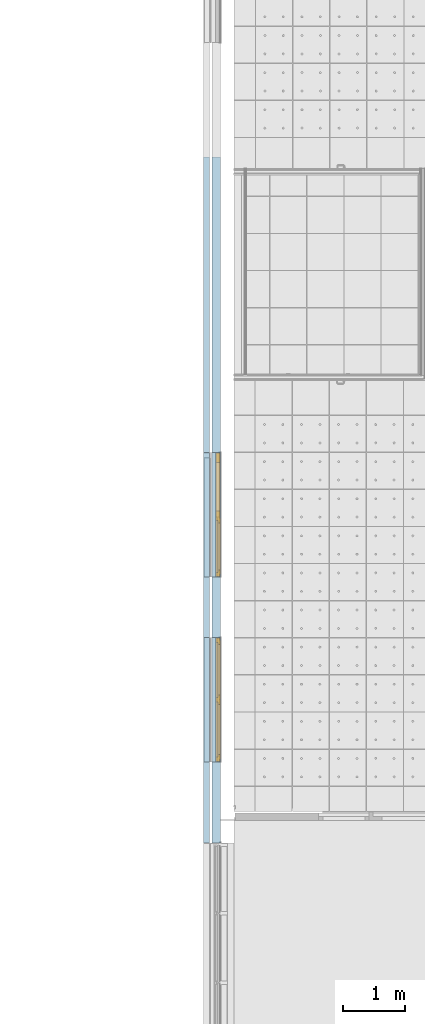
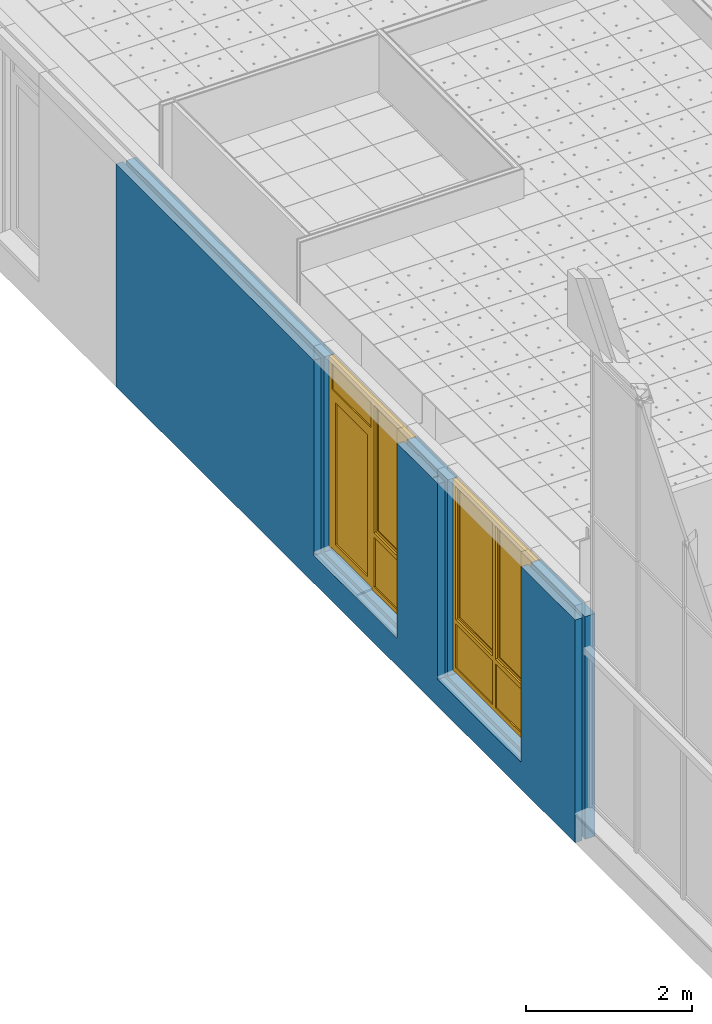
# One storey, part 50 of 338: 2 building element parts, 1 door, 1 window, 2 openings, 1 element without a shape of its own.
"""IFC2X3 building model written with IfcOpenShell, lengths in millimetres."""

import ifcopenshell
import ifcopenshell.guid

model = None  # the IFC model being written
_history = None  # IfcOwnerHistory: only IFC2X3 demands one
_inside = {}  # id of a spatial element -> (the spatial element, [elements in it])
_under = {}  # id of a project, library or spatial element -> (it, [spatial elements below it])
_declared = {}  # id of a project -> (the project, [libraries it declares])
_typed = {}  # id of a type object -> (the type object, [elements of that type])
_made_of = {}  # id of a material, layer set ... -> (it, [elements and type objects made of it])


def new_model(schema):
    """Start an empty IFC model of exactly this schema.

    Asked for "IFC4X3", IfcOpenShell would pick the latest addendum, in which some entities
    have other attributes; the version numbers below select the first issue.
    IFC2X3 requires an IfcOwnerHistory on every rooted entity: one is made here for all.
    """
    global model, _history
    if schema == "IFC4X3":
        model = ifcopenshell.file(schema_version=(4, 3, 0, 0))
    else:
        model = ifcopenshell.file(schema=schema)
    _inside.clear()
    _under.clear()
    _declared.clear()
    _typed.clear()
    _made_of.clear()
    _history = None
    if model.schema == "IFC2X3":
        org = make("IfcOrganization", Name="unknown")
        user = make(
            "IfcPersonAndOrganization",
            ThePerson=make("IfcPerson", FamilyName="unknown"),
            TheOrganization=org,
        )
        app = make(
            "IfcApplication",
            ApplicationDeveloper=org,
            Version="unknown",
            ApplicationFullName="unknown",
            ApplicationIdentifier="unknown",
        )
        _history = make(
            "IfcOwnerHistory",
            OwningUser=user,
            OwningApplication=app,
            ChangeAction="ADDED",
            CreationDate=0,
        )
    return model


def make(cls, **values):
    """One entity of the class cls with the attributes given. An attribute that is None is left unset."""
    return model.create_entity(
        cls, **{name: value for name, value in values.items() if value is not None}
    )


def entity(cls, *values):
    """Any entity or typed value of the class cls, its attributes in the order of the schema. None: left unset."""
    e = model.create_entity(cls)
    for i, value in enumerate(values):
        if value is not None:
            e[i] = value
    return e


def rooted(cls, **values):
    """An entity with a GlobalId (a new one), such as an element, a storey or a relation."""
    return make(cls, GlobalId=ifcopenshell.guid.new(), OwnerHistory=_history, **values)


def si_unit(unit_type, name, prefix=None):
    """IfcSIUnit, for example si_unit("LENGTHUNIT", "METRE", prefix="MILLI")."""
    return make("IfcSIUnit", UnitType=unit_type, Prefix=prefix, Name=name)


def converted_unit(unit_type, name, factor, base, dimensions=None, offset=None):
    """IfcConversionBasedUnit, such as the inch: factor (a typed value) times the base unit."""
    return make(
        "IfcConversionBasedUnit"
        if offset is None
        else "IfcConversionBasedUnitWithOffset",
        ConversionOffset=offset,
        Dimensions=None
        if dimensions is None
        else entity("IfcDimensionalExponents", *dimensions),
        UnitType=unit_type,
        Name=name,
        ConversionFactor=make(
            "IfcMeasureWithUnit", ValueComponent=factor, UnitComponent=base
        ),
    )


def derived_unit(unit_type, elements):
    """IfcDerivedUnit: a product of units, each with its exponent."""
    return make(
        "IfcDerivedUnit",
        Elements=[
            make("IfcDerivedUnitElement", Unit=unit, Exponent=power)
            for unit, power in elements
        ],
        UnitType=unit_type,
    )


def money_unit(currency):
    """IfcMonetaryUnit."""
    return make("IfcMonetaryUnit", Currency=currency)


def assignment(units):
    """IfcUnitAssignment: the units of a project."""
    return None if units is None else make("IfcUnitAssignment", Units=units)


def point(xyz):
    """IfcCartesianPoint."""
    return None if xyz is None else make("IfcCartesianPoint", Coordinates=xyz)


def direction(xyz):
    """IfcDirection."""
    return None if xyz is None else make("IfcDirection", DirectionRatios=xyz)


def frame(location, z_axis=None, x_axis=None):
    """IfcAxis2Placement3D, a coordinate frame: its origin and axes. An axis left out is left unset."""
    return make(
        "IfcAxis2Placement3D",
        Location=point(location),
        Axis=direction(z_axis),
        RefDirection=direction(x_axis),
    )


def origin_with_axes():
    """The frame at (0, 0, 0) with the z axis (0, 0, 1) and the x axis (1, 0, 0) written out."""
    return frame((0.0, 0.0, 0.0), z_axis=(0.0, 0.0, 1.0), x_axis=(1.0, 0.0, 0.0))


def place(relative_to, where):
    """IfcLocalPlacement: puts the frame where relative to a parent placement (None: the world)."""
    return make(
        "IfcLocalPlacement", PlacementRelTo=relative_to, RelativePlacement=where
    )


def context(
    kind, dimensions, precision=None, world=None, true_north=None, identifier=None
):
    """IfcGeometricRepresentationContext, for example the 3D "Model" context."""
    return make(
        "IfcGeometricRepresentationContext",
        ContextIdentifier=identifier,
        ContextType=kind,
        CoordinateSpaceDimension=dimensions,
        Precision=precision,
        WorldCoordinateSystem=world,
        TrueNorth=true_north,
    )


def subcontext(parent, identifier, kind, view, scale=None):
    """IfcGeometricRepresentationSubContext, for example "Body" below "Model"."""
    return make(
        "IfcGeometricRepresentationSubContext",
        ContextIdentifier=identifier,
        ContextType=kind,
        ParentContext=parent,
        TargetScale=scale,
        TargetView=view,
    )


def project(units=None, contexts=None):
    """IfcProject with its units and contexts."""
    return rooted(
        "IfcProject",
        Name="project",
        RepresentationContexts=contexts,
        UnitsInContext=assignment(units),
    )


def spatial(cls, under=None, at=None, **own):
    """A site, building, storey or space (cls), placed at a placement, below another one or the project."""
    s = rooted(cls, ObjectPlacement=at, **own)
    if under is not None:
        _under.setdefault(under.id(), (under, []))[1].append(s)
    return s


def faces_of(points, faces, orient=None, outer=None):
    """IfcFace entities. A face is a list of loops; a loop is a list of indices into points, from 0.

    orient and outer hold one flag for each loop. By default every Orientation is true, the
    first loop of a face is its IfcFaceOuterBound and the others are IfcFaceBound.
    """
    made = []
    for i, loops in enumerate(faces):
        bounds = []
        for j, loop in enumerate(loops):
            is_outer = j == 0 if outer is None else outer[i][j]
            bounds.append(
                make(
                    "IfcFaceOuterBound" if is_outer else "IfcFaceBound",
                    Bound=make("IfcPolyLoop", Polygon=[points[k] for k in loop]),
                    Orientation=True if orient is None else orient[i][j],
                )
            )
        made.append(make("IfcFace", Bounds=bounds))
    return made


def open_shell(faces, orient=None, outer=None):
    """The faces of one IfcOpenShell. surface_model builds it on its shared points."""
    return ("IfcOpenShell", faces, orient, outer)


def faceted_brep(points, faces, orient=None, outer=None, voids=None):
    """IfcFacetedBrep: a solid bounded by flat faces; with voids (closed shells), ...WithVoids."""
    shared = [point(p) for p in points]
    hull = make("IfcClosedShell", CfsFaces=faces_of(shared, faces, orient, outer))
    if voids is None:
        return make("IfcFacetedBrep", Outer=hull)
    return make(
        "IfcFacetedBrepWithVoids",
        Outer=hull,
        Voids=[
            make(cls, CfsFaces=faces_of(shared, fs, o, b)) for cls, fs, o, b in voids
        ],
    )


def surface_model(cls, points, shells):
    """IfcFaceBasedSurfaceModel or IfcShellBasedSurfaceModel (cls): surfaces that need not close."""
    shared = [point(p) for p in points]
    made = [make(c, CfsFaces=faces_of(shared, fs, o, b)) for c, fs, o, b in shells]
    if cls == "IfcFaceBasedSurfaceModel":
        return make(cls, FbsmFaces=made)
    return make(cls, SbsmBoundary=made)


def shape(context_of_items, identifier, shape_type, items):
    """IfcShapeRepresentation: the items that make up one representation, for example the "Body"."""
    return make(
        "IfcShapeRepresentation",
        ContextOfItems=context_of_items,
        RepresentationIdentifier=identifier,
        RepresentationType=shape_type,
        Items=items,
    )


def source(mapping_origin, context_of_items, identifier, shape_type, items):
    """IfcRepresentationMap: a shape defined once, which mapped items show again and again."""
    return make(
        "IfcRepresentationMap",
        MappingOrigin=mapping_origin,
        MappedRepresentation=shape(context_of_items, identifier, shape_type, items),
    )


def transform(
    local_origin,
    x_axis=None,
    y_axis=None,
    z_axis=None,
    scale=None,
    scale2=None,
    scale3=None,
    uniform=True,
):
    """IfcCartesianTransformationOperator3D, or its non-uniform kind. x_axis, y_axis, z_axis: its Axis1, 2, 3."""
    if uniform:
        return make(
            "IfcCartesianTransformationOperator3D",
            Axis1=direction(x_axis),
            Axis2=direction(y_axis),
            LocalOrigin=point(local_origin),
            Scale=scale,
            Axis3=direction(z_axis),
        )
    return make(
        "IfcCartesianTransformationOperator3DnonUniform",
        Axis1=direction(x_axis),
        Axis2=direction(y_axis),
        LocalOrigin=point(local_origin),
        Scale=scale,
        Axis3=direction(z_axis),
        Scale2=scale2,
        Scale3=scale3,
    )


def mapped(mapping_source, mapping_target):
    """IfcMappedItem: shows the shape of a source again, moved by a transform."""
    return make(
        "IfcMappedItem", MappingSource=mapping_source, MappingTarget=mapping_target
    )


def material(Name=None, Category=None):
    """IfcMaterial."""
    return make("IfcMaterial", Name=Name, Category=Category)


def made_of(thing, what):
    """Note that an element or type object is made of a material, layer set ...; save() writes the relation."""
    if what is not None:
        _made_of.setdefault(what.id(), (what, []))[1].append(thing)
    return thing


def type_object(cls, material=None, **own):
    """A type object (cls), such as IfcWallType, which elements share."""
    return made_of(rooted(cls, **own), material)


def type_shapes(of_type, sources):
    """Give a type object the sources (RepresentationMaps) that its elements show as mapped items."""
    of_type.RepresentationMaps = sources


def element(
    cls,
    number,
    at=None,
    inside=None,
    cuts=None,
    type_object=None,
    material=None,
    context=None,
    identifier="Body",
    shape_type=None,
    held_by="IfcProductDefinitionShape",
    body=None,
    shapes=None,
    **own,
):
    """One element of the class cls, such as IfcWall. Its Tag is "e" and its number.

    at: its placement. inside: the storey or other place that contains it. cuts: it is an
    opening in that element (IfcRelVoidsElement). A single representation is given by context,
    identifier, shape_type and body (its items); several are given by shapes. held_by: the class
    of the entity that holds the representations. save() writes the other relations.
    """
    e = rooted(cls, Tag="e%d" % number, ObjectPlacement=at, **own)
    if body is not None:
        shapes = [shape(context, identifier, shape_type, body)]
    if shapes is not None:
        e.Representation = make(held_by, Representations=shapes)
    if inside is not None:
        _inside.setdefault(inside.id(), (inside, []))[1].append(e)
    if cuts is not None:
        rooted(
            "IfcRelVoidsElement", RelatingBuildingElement=cuts, RelatedOpeningElement=e
        )
    if type_object is not None:
        _typed.setdefault(type_object.id(), (type_object, []))[1].append(e)
    return made_of(e, material)


def fill(opening, filler):
    """IfcRelFillsElement: the door or window that sits in an opening."""
    return rooted(
        "IfcRelFillsElement",
        RelatingOpeningElement=opening,
        RelatedBuildingElement=filler,
    )


def aggregate(whole, parts):
    """IfcRelAggregates: a whole, such as a stair, and the parts it consists of."""
    return rooted("IfcRelAggregates", RelatingObject=whole, RelatedObjects=parts)


def save(model, path):
    """Write the relations noted so far, then the file.

    IfcRelAggregates (storeys below a building ...), IfcRelContainedInSpatialStructure (elements
    in a storey), IfcRelDefinesByType, IfcRelAssociatesMaterial and IfcRelDeclares: one each for
    every whole, place, type object, material and project.
    """
    for whole, parts in _under.values():
        aggregate(whole, parts)
    for where, things in _inside.values():
        rooted(
            "IfcRelContainedInSpatialStructure",
            RelatedElements=things,
            RelatingStructure=where,
        )
    for kind, things in _typed.values():
        rooted("IfcRelDefinesByType", RelatedObjects=things, RelatingType=kind)
    for what, things in _made_of.values():
        rooted("IfcRelAssociatesMaterial", RelatedObjects=things, RelatingMaterial=what)
    for by, libraries in _declared.values():
        rooted("IfcRelDeclares", RelatingContext=by, RelatedDefinitions=libraries)
    model.write(path)


model = new_model("IFC2X3")

# Units and contexts
model_context = context("Model", 3, precision=0.01, world=origin_with_axes(), true_north=direction((0.0, 1.0)))
plan_context = context("Plan", 3, precision=0.01, world=origin_with_axes(), true_north=direction((0.0, 1.0)))
body_context = subcontext(model_context, "Body", "Model", "MODEL_VIEW")
ifc_project = project(units=[si_unit("LENGTHUNIT", "METRE", prefix="MILLI"), si_unit("AREAUNIT", "SQUARE_METRE"), si_unit("VOLUMEUNIT", "CUBIC_METRE"), converted_unit("PLANEANGLEUNIT", "DEGREE", entity("IfcPlaneAngleMeasure", 0.0174532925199), si_unit("PLANEANGLEUNIT", "RADIAN"), dimensions=[0, 0, 0, 0, 0, 0, 0]), money_unit("EUR"), converted_unit("TIMEUNIT", "Year", entity("IfcTimeMeasure", 31556926.0), si_unit("TIMEUNIT", "SECOND"), dimensions=[0, 0, 1, 0, 0, 0, 0]), si_unit("MASSUNIT", "GRAM", prefix="KILO"), si_unit("THERMODYNAMICTEMPERATUREUNIT", "DEGREE_CELSIUS"), si_unit("LUMINOUSINTENSITYUNIT", "LUMEN"), si_unit("ENERGYUNIT", "JOULE", prefix="MEGA"), derived_unit("THERMALCONDUCTANCEUNIT", [(si_unit("POWERUNIT", "WATT"), 1), (si_unit("LENGTHUNIT", "METRE"), -1), (si_unit("THERMODYNAMICTEMPERATUREUNIT", "KELVIN"), -1)]), derived_unit("SPECIFICHEATCAPACITYUNIT", [(si_unit("ENERGYUNIT", "JOULE"), 1), (si_unit("MASSUNIT", "GRAM", prefix="KILO"), -1), (si_unit("THERMODYNAMICTEMPERATUREUNIT", "KELVIN"), -1)]), derived_unit("MASSDENSITYUNIT", [(si_unit("MASSUNIT", "GRAM", prefix="KILO"), 1), (si_unit("VOLUMEUNIT", "CUBIC_METRE"), -1)])], contexts=[model_context, plan_context])

# Site, building, storey
site_placement = place(None, origin_with_axes())
site = spatial("IfcSite", under=ifc_project, at=site_placement, Name="Fortuinstraat Woensdrecht", CompositionType="ELEMENT")
building_placement = place(site_placement, origin_with_axes())
building = spatial("IfcBuilding", under=site, at=building_placement, Name="IKC Fortuna", CompositionType="ELEMENT")
storey_placement = place(building_placement, origin_with_axes())
storey = spatial("IfcBuildingStorey", under=building, at=storey_placement, Name="00 begane grond", CompositionType="ELEMENT", Elevation=0.0)

# Window
window_style = type_object("IfcWindowStyle", Name="R2 bl ol 25", ConstructionType="NOTDEFINED", OperationType="USERDEFINED", ParameterTakesPrecedence=False, Sizeable=False)
shared_shape_1 = source(origin_with_axes(), body_context, "Body", "SurfaceModel", [
    faceted_brep([(-957.0, 0.0, 2748.0), (-997.0, 0.0, 2748.0), (-997.0, -62.0, 2748.0), (-929.0, -62.0, 2748.0), (-929.0, -36.0, 2748.0), (-957.0, -36.0, 2748.0), (-957.0, 0.0, 756.0), (-929.0, 0.0, 756.0), (-929.0, 0.0, 716.0), (-929.0, 0.0, 68.0), (-997.0, 0.0, 68.0), (-997.0, -62.0, 68.0), (-929.0, -62.0, 784.0), (-929.0, -62.0, 68.0), (-929.0, -62.0, 716.0), (-929.0, -36.0, 784.0), (-929.0, -36.0, 756.0), (-957.0, -36.0, 756.0)], [[[0, 1, 2, 3, 4, 5]], [[6, 7, 8, 9, 10, 1, 0]], [[1, 10, 11, 2]], [[12, 3, 2, 11, 13, 14]], [[4, 3, 12, 15]], [[15, 16, 17, 5, 4]], [[5, 17, 6, 0]], [[6, 17, 16, 7]], [[16, 15, 12, 14, 8, 7]], [[9, 8, 14, 13]], [[10, 9, 13, 11]]]),
    faceted_brep([(929.0, -36.0, 2748.0), (929.0, -62.0, 2748.0), (997.0, -62.0, 2748.0), (997.0, 0.0, 2748.0), (957.0, 0.0, 2748.0), (957.0, -36.0, 2748.0), (929.0, -36.0, 784.0), (929.0, -62.0, 784.0), (997.0, -62.0, 68.0), (929.0, -62.0, 716.0), (929.0, -62.0, 68.0), (997.0, 0.0, 68.0), (957.0, 0.0, 756.0), (929.0, 0.0, 68.0), (929.0, 0.0, 716.0), (929.0, 0.0, 756.0), (957.0, -36.0, 756.0), (929.0, -36.0, 756.0)], [[[0, 1, 2, 3, 4, 5]], [[6, 7, 1, 0]], [[8, 2, 1, 7, 9, 10]], [[11, 3, 2, 8]], [[12, 4, 3, 11, 13, 14, 15]], [[12, 16, 5, 4]], [[5, 16, 17, 6, 0]], [[17, 15, 14, 9, 7, 6]], [[14, 13, 10, 9]], [[13, 11, 8, 10]], [[15, 17, 16, 12]]]),
    faceted_brep([(-34.0, -36.0, 2748.0), (-34.0, -62.0, 2748.0), (34.0, -62.0, 2748.0), (34.0, -36.0, 2748.0), (6.0, -36.0, 2748.0), (6.0, 0.0, 2748.0), (-6.0, 0.0, 2748.0), (-6.0, -36.0, 2748.0), (-34.0, -36.0, 784.0), (-34.0, -62.0, 784.0), (-34.0, -62.0, 716.0), (-34.0, -62.0, 68.0), (34.0, -62.0, 68.0), (34.0, -62.0, 716.0), (34.0, -62.0, 784.0), (34.0, -36.0, 784.0), (34.0, -36.0, 756.0), (6.0, -36.0, 756.0), (6.0, 0.0, 756.0), (-6.0, 0.0, 756.0), (34.0, 0.0, 756.0), (34.0, 0.0, 716.0), (34.0, 0.0, 68.0), (-34.0, 0.0, 68.0), (-34.0, 0.0, 716.0), (-34.0, 0.0, 756.0), (-6.0, -36.0, 756.0), (-34.0, -36.0, 756.0)], [[[0, 1, 2, 3, 4, 5, 6, 7]], [[8, 9, 1, 0]], [[10, 11, 12, 13, 14, 2, 1, 9]], [[3, 2, 14, 15]], [[15, 16, 17, 4, 3]], [[4, 17, 18, 5]], [[19, 6, 5, 18, 20, 21, 22, 23, 24, 25]], [[19, 26, 7, 6]], [[7, 26, 27, 8, 0]], [[27, 25, 24, 10, 9, 8]], [[24, 23, 11, 10]], [[23, 22, 12, 11]], [[22, 21, 13, 12]], [[16, 15, 14, 13, 21, 20]], [[18, 17, 16, 20]], [[25, 27, 26, 19]]]),
    faceted_brep([(34.0, -36.0, 784.0), (34.0, -62.0, 784.0), (929.0, -62.0, 784.0), (929.0, -36.0, 784.0), (34.0, -36.0, 756.0), (34.0, 0.0, 756.0), (34.0, 0.0, 716.0), (34.0, -62.0, 716.0), (929.0, -62.0, 716.0), (929.0, -36.0, 756.0), (929.0, 0.0, 716.0), (929.0, 0.0, 756.0)], [[[0, 1, 2, 3]], [[4, 5, 6, 7, 1, 0]], [[7, 8, 2, 1]], [[9, 3, 2, 8, 10, 11]], [[9, 4, 0, 3]], [[5, 4, 9, 11]], [[11, 10, 6, 5]], [[6, 10, 8, 7]]]),
    faceted_brep([(-929.0, -36.0, 784.0), (-929.0, -62.0, 784.0), (-34.0, -62.0, 784.0), (-34.0, -36.0, 784.0), (-929.0, -36.0, 756.0), (-929.0, 0.0, 756.0), (-929.0, 0.0, 716.0), (-929.0, -62.0, 716.0), (-34.0, -62.0, 716.0), (-34.0, -36.0, 756.0), (-34.0, 0.0, 716.0), (-34.0, 0.0, 756.0)], [[[0, 1, 2, 3]], [[4, 5, 6, 7, 1, 0]], [[2, 1, 7, 8]], [[9, 3, 2, 8, 10, 11]], [[9, 4, 0, 3]], [[5, 4, 9, 11]], [[11, 10, 6, 5]], [[6, 10, 8, 7]]]),
    faceted_brep([(-957.0, 0.0, 2748.0), (-997.0, 0.0, 2748.0), (-997.0, 0.0, 2816.0), (997.0, 0.0, 2816.0), (997.0, 0.0, 2748.0), (957.0, 0.0, 2748.0), (957.0, 0.0, 2776.0), (6.0, 0.0, 2776.0), (6.0, 0.0, 2748.0), (-6.0, 0.0, 2748.0), (-6.0, 0.0, 2776.0), (-957.0, 0.0, 2776.0), (-957.0, -36.0, 2748.0), (-929.0, -36.0, 2748.0), (-929.0, -62.0, 2748.0), (-997.0, -62.0, 2748.0), (-997.0, -62.0, 2816.0), (997.0, -62.0, 2816.0), (997.0, -62.0, 2748.0), (957.0, -36.0, 2748.0), (929.0, -62.0, 2748.0), (929.0, -36.0, 2748.0), (957.0, -36.0, 2776.0), (6.0, -36.0, 2776.0), (6.0, -36.0, 2748.0), (-6.0, -36.0, 2748.0), (34.0, -36.0, 2748.0), (34.0, -62.0, 2748.0), (-34.0, -62.0, 2748.0), (-34.0, -36.0, 2748.0), (-6.0, -36.0, 2776.0), (-957.0, -36.0, 2776.0)], [[[0, 1, 2, 3, 4, 5, 6, 7, 8, 9, 10, 11]], [[12, 13, 14, 15, 1, 0]], [[2, 1, 15, 16]], [[3, 2, 16, 17]], [[4, 3, 17, 18]], [[19, 5, 4, 18, 20, 21]], [[5, 19, 22, 6]], [[6, 22, 23, 7]], [[7, 23, 24, 8]], [[25, 9, 8, 24, 26, 27, 28, 29]], [[9, 25, 30, 10]], [[10, 30, 31, 11]], [[11, 31, 12, 0]], [[29, 13, 12, 31, 30, 25]], [[29, 28, 14, 13]], [[27, 20, 18, 17, 16, 15, 14, 28]], [[21, 20, 27, 26]], [[21, 26, 24, 23, 22, 19]]]),
    faceted_brep([(-929.0, -62.0, 68.0), (-929.0, 0.0, 68.0), (-997.0, 0.0, 68.0), (-997.0, -62.0, 68.0), (-34.0, -62.0, 68.0), (-34.0, 0.0, 68.0), (34.0, 0.0, 68.0), (929.0, 0.0, 68.0), (997.0, 0.0, 68.0), (997.0, 0.0, 0.0), (-997.0, 0.0, 0.0), (-997.0, -62.0, 0.0), (997.0, -62.0, 0.0), (997.0, -62.0, 68.0), (929.0, -62.0, 68.0), (34.0, -62.0, 68.0)], [[[0, 1, 2, 3]], [[4, 5, 1, 0]], [[1, 5, 6, 7, 8, 9, 10, 2]], [[3, 2, 10, 11]], [[0, 3, 11, 12, 13, 14, 15, 4]], [[15, 6, 5, 4]], [[14, 7, 6, 15]], [[13, 8, 7, 14]], [[12, 9, 8, 13]], [[11, 10, 9, 12]]]),
    faceted_brep([(-889.0, -36.0, 2708.0), (-889.0, 8.0, 2708.0), (-957.0, 8.0, 2708.0), (-957.0, -36.0, 2708.0), (-889.0, -36.0, 824.0), (-889.0, 8.0, 824.0), (-957.0, 8.0, 824.0), (-957.0, -36.0, 824.0)], [[[0, 1, 2, 3]], [[4, 5, 1, 0]], [[1, 5, 6, 2]], [[3, 2, 6, 7]], [[0, 3, 7, 4]], [[7, 6, 5, 4]]]),
    faceted_brep([(-74.0, -36.0, 824.0), (-74.0, 8.0, 824.0), (-6.0, 8.0, 824.0), (-6.0, -36.0, 824.0), (-74.0, -36.0, 2708.0), (-74.0, 8.0, 2708.0), (-6.0, 8.0, 2708.0), (-6.0, -36.0, 2708.0)], [[[0, 1, 2, 3]], [[4, 5, 1, 0]], [[1, 5, 6, 2]], [[3, 2, 6, 7]], [[0, 3, 7, 4]], [[7, 6, 5, 4]]]),
    faceted_brep([(-6.0, -36.0, 756.0), (-6.0, 8.0, 756.0), (-6.0, 8.0, 824.0), (-6.0, -36.0, 824.0), (-957.0, -36.0, 756.0), (-957.0, 8.0, 756.0), (-957.0, 8.0, 824.0), (-889.0, 8.0, 824.0), (-74.0, 8.0, 824.0), (-74.0, -36.0, 824.0), (-889.0, -36.0, 824.0), (-957.0, -36.0, 824.0)], [[[0, 1, 2, 3]], [[4, 5, 1, 0]], [[1, 5, 6, 7, 8, 2]], [[3, 2, 8, 9]], [[0, 3, 9, 10, 11, 4]], [[11, 6, 5, 4]], [[10, 7, 6, 11]], [[9, 8, 7, 10]]]),
    faceted_brep([(-957.0, -36.0, 2776.0), (-957.0, 8.0, 2776.0), (-957.0, 8.0, 2708.0), (-957.0, -36.0, 2708.0), (-6.0, -36.0, 2776.0), (-6.0, 8.0, 2776.0), (-6.0, 8.0, 2708.0), (-74.0, 8.0, 2708.0), (-889.0, 8.0, 2708.0), (-889.0, -36.0, 2708.0), (-74.0, -36.0, 2708.0), (-6.0, -36.0, 2708.0)], [[[0, 1, 2, 3]], [[4, 5, 1, 0]], [[1, 5, 6, 7, 8, 2]], [[3, 2, 8, 9]], [[0, 3, 9, 10, 11, 4]], [[11, 6, 5, 4]], [[10, 7, 6, 11]], [[9, 8, 7, 10]]]),
    surface_model("IfcShellBasedSurfaceModel", [(-889.0, -24.0, 824.0), (-74.0, -24.0, 824.0), (-74.0, -24.0, 2708.0), (-889.0, -24.0, 2708.0)], [open_shell([[[0, 1, 2, 3]]])]),
    surface_model("IfcShellBasedSurfaceModel", [(-889.0, -4.0, 824.0), (-889.0, -4.0, 2708.0), (-74.0, -4.0, 2708.0), (-74.0, -4.0, 824.0)], [open_shell([[[0, 1, 2, 3]]])]),
    faceted_brep([(74.0, -36.0, 2708.0), (74.0, 8.0, 2708.0), (6.0, 8.0, 2708.0), (6.0, -36.0, 2708.0), (74.0, -36.0, 824.0), (74.0, 8.0, 824.0), (6.0, 8.0, 824.0), (6.0, -36.0, 824.0)], [[[0, 1, 2, 3]], [[4, 5, 1, 0]], [[1, 5, 6, 2]], [[3, 2, 6, 7]], [[0, 3, 7, 4]], [[7, 6, 5, 4]]]),
    faceted_brep([(889.0, -36.0, 824.0), (889.0, 8.0, 824.0), (957.0, 8.0, 824.0), (957.0, -36.0, 824.0), (889.0, -36.0, 2708.0), (889.0, 8.0, 2708.0), (957.0, 8.0, 2708.0), (957.0, -36.0, 2708.0)], [[[0, 1, 2, 3]], [[4, 5, 1, 0]], [[1, 5, 6, 2]], [[3, 2, 6, 7]], [[0, 3, 7, 4]], [[7, 6, 5, 4]]]),
    faceted_brep([(957.0, -36.0, 756.0), (957.0, 8.0, 756.0), (957.0, 8.0, 824.0), (957.0, -36.0, 824.0), (6.0, -36.0, 756.0), (6.0, 8.0, 756.0), (6.0, 8.0, 824.0), (74.0, 8.0, 824.0), (889.0, 8.0, 824.0), (889.0, -36.0, 824.0), (74.0, -36.0, 824.0), (6.0, -36.0, 824.0)], [[[0, 1, 2, 3]], [[4, 5, 1, 0]], [[1, 5, 6, 7, 8, 2]], [[3, 2, 8, 9]], [[0, 3, 9, 10, 11, 4]], [[11, 6, 5, 4]], [[10, 7, 6, 11]], [[9, 8, 7, 10]]]),
    faceted_brep([(6.0, -36.0, 2776.0), (6.0, 8.0, 2776.0), (6.0, 8.0, 2708.0), (6.0, -36.0, 2708.0), (957.0, -36.0, 2776.0), (957.0, 8.0, 2776.0), (957.0, 8.0, 2708.0), (889.0, 8.0, 2708.0), (74.0, 8.0, 2708.0), (74.0, -36.0, 2708.0), (889.0, -36.0, 2708.0), (957.0, -36.0, 2708.0)], [[[0, 1, 2, 3]], [[4, 5, 1, 0]], [[1, 5, 6, 7, 8, 2]], [[3, 2, 8, 9]], [[0, 3, 9, 10, 11, 4]], [[11, 6, 5, 4]], [[10, 7, 6, 11]], [[9, 8, 7, 10]]]),
    surface_model("IfcShellBasedSurfaceModel", [(74.0, -24.0, 824.0), (889.0, -24.0, 824.0), (889.0, -24.0, 2708.0), (74.0, -24.0, 2708.0)], [open_shell([[[0, 1, 2, 3]]])]),
    surface_model("IfcShellBasedSurfaceModel", [(74.0, -4.0, 824.0), (74.0, -4.0, 2708.0), (889.0, -4.0, 2708.0), (889.0, -4.0, 824.0)], [open_shell([[[0, 1, 2, 3]]])]),
    surface_model("IfcShellBasedSurfaceModel", [(-929.0, -46.0, 68.0), (-34.0, -46.0, 68.0), (-34.0, -46.0, 716.0), (-929.0, -46.0, 716.0)], [open_shell([[[0, 1, 2, 3]]])]),
    surface_model("IfcShellBasedSurfaceModel", [(-929.0, -26.0, 68.0), (-929.0, -26.0, 716.0), (-34.0, -26.0, 716.0), (-34.0, -26.0, 68.0)], [open_shell([[[0, 1, 2, 3]]])]),
    surface_model("IfcShellBasedSurfaceModel", [(34.0, -46.0, 68.0), (929.0, -46.0, 68.0), (929.0, -46.0, 716.0), (34.0, -46.0, 716.0)], [open_shell([[[0, 1, 2, 3]]])]),
    surface_model("IfcShellBasedSurfaceModel", [(34.0, -26.0, 68.0), (34.0, -26.0, 716.0), (929.0, -26.0, 716.0), (929.0, -26.0, 68.0)], [open_shell([[[0, 1, 2, 3]]])]),
])
type_shapes(window_style, [shared_shape_1])
wall_placement = place(storey_placement, frame((13595.4349765, 15702.2768159, -485.0), z_axis=(0.0, 0.0, 1.0), x_axis=(0.0, 1.0, 0.0)))
opening_1_placement = place(wall_placement, frame((2315.00004124, 0.0, 469.0), z_axis=(0.0, 0.0, 1.0), x_axis=(1.0, 0.0, 0.0)))
window_placement = place(opening_1_placement, frame((997.0, 0.0, 0.0), z_axis=(0.0, 0.0, 1.0), x_axis=(-1.0, 0.0, 0.0)))
window = element("IfcWindow", 1, at=window_placement, inside=storey, type_object=window_style, Name="31_Raam_A.01a", ObjectType="WINDOW", OverallHeight=2816.0, OverallWidth=1994.0, context=body_context, shape_type="MappedRepresentation", body=[
    mapped(shared_shape_1, transform((997.0, -10.0, 0.0))),
])

# Door
door_style = type_object("IfcDoorStyle", Name="D1 bl zl1-b 25", ConstructionType="NOTDEFINED", OperationType="SINGLE_SWING_LEFT", ParameterTakesPrecedence=False, Sizeable=False)
shared_shape_2 = source(origin_with_axes(), body_context, "Body", "SurfaceModel", [
    faceted_brep([(929.0, -36.0, 868.0), (929.0, -62.0, 868.0), (929.0, -62.0, 2748.0), (929.0, -36.0, 2748.0), (929.0, -36.0, 840.0), (929.0, 0.0, 840.0), (929.0, 0.0, 800.0), (929.0, 0.0, 68.0), (929.0, -62.0, 68.0), (929.0, -62.0, 800.0), (929.0, -62.0, 0.0), (997.0, -62.0, 0.0), (997.0, -62.0, 2748.0), (957.0, -36.0, 2748.0), (997.0, 0.0, 2748.0), (957.0, 0.0, 2748.0), (957.0, -36.0, 840.0), (957.0, 0.0, 840.0), (997.0, 0.0, 0.0), (929.0, 0.0, 0.0)], [[[0, 1, 2, 3]], [[4, 5, 6, 7, 8, 9, 1, 0]], [[1, 9, 8, 10, 11, 12, 2]], [[13, 3, 2, 12, 14, 15]], [[13, 16, 4, 0, 3]], [[4, 16, 17, 5]], [[17, 15, 14, 18, 19, 7, 6, 5]], [[7, 19, 10, 8]], [[19, 18, 11, 10]], [[18, 14, 12, 11]], [[15, 17, 16, 13]]]),
    faceted_brep([(61.0, -36.0, 2748.0), (61.0, 0.0, 2748.0), (21.0, 0.0, 2748.0), (21.0, -62.0, 2748.0), (89.0, -62.0, 2748.0), (89.0, -36.0, 2748.0), (61.0, -36.0, 840.0), (61.0, 0.0, 840.0), (89.0, 0.0, 840.0), (89.0, 0.0, 800.0), (89.0, 0.0, 68.0), (89.0, 0.0, 0.0), (38.0, 0.0, 0.0), (38.0, 0.0, 2317.0), (21.0, 0.0, 2317.0), (21.0, 0.0, 2368.0), (21.0, -62.0, 2368.0), (89.0, -62.0, 800.0), (89.0, -62.0, 868.0), (21.0, -62.0, 2317.0), (38.0, -62.0, 2317.0), (38.0, -62.0, 0.0), (89.0, -62.0, 0.0), (89.0, -62.0, 68.0), (89.0, -36.0, 840.0)], [[[0, 1, 2, 3, 4, 5]], [[0, 6, 7, 1]], [[7, 8, 9, 10, 11, 12, 13, 14, 15, 2, 1]], [[3, 2, 15, 16]], [[17, 18, 4, 3, 16, 19, 20, 21, 22, 23]], [[24, 5, 4, 18, 17, 23, 10, 9, 8]], [[5, 24, 6, 0]], [[7, 6, 24, 8]], [[22, 11, 10, 23]], [[21, 12, 11, 22]], [[21, 20, 13, 12]], [[19, 14, 13, 20]], [[14, 19, 16, 15]]]),
    faceted_brep([(929.0, 0.0, 68.0), (929.0, -62.0, 68.0), (929.0, -62.0, 0.0), (929.0, 0.0, 0.0), (89.0, 0.0, 68.0), (89.0, -62.0, 68.0), (89.0, -62.0, 0.0), (89.0, 0.0, 0.0)], [[[0, 1, 2, 3]], [[4, 5, 1, 0]], [[1, 5, 6, 2]], [[3, 2, 6, 7]], [[0, 3, 7, 4]], [[7, 6, 5, 4]]]),
    faceted_brep([(-946.0, -62.0, 2317.0), (-929.0, -62.0, 2317.0), (-929.0, -62.0, 2368.0), (-929.0, -62.0, 2748.0), (-997.0, -62.0, 2748.0), (-997.0, -62.0, 0.0), (-946.0, -62.0, 0.0), (-946.0, 0.0, 2317.0), (-929.0, 0.0, 2317.0), (-929.0, 0.0, 2368.0), (-929.0, 0.0, 2748.0), (-997.0, 0.0, 2748.0), (-997.0, 0.0, 0.0), (-946.0, 0.0, 0.0)], [[[0, 1, 2, 3, 4, 5, 6]], [[0, 7, 8, 1]], [[8, 9, 2, 1]], [[9, 10, 3, 2]], [[10, 11, 4, 3]], [[11, 12, 5, 4]], [[6, 5, 12, 13]], [[6, 13, 7, 0]], [[7, 13, 12, 11, 10, 9, 8]]]),
    faceted_brep([(957.0, 0.0, 2776.0), (61.0, 0.0, 2776.0), (61.0, 0.0, 2748.0), (21.0, 0.0, 2748.0), (-929.0, 0.0, 2748.0), (-997.0, 0.0, 2748.0), (-997.0, 0.0, 2816.0), (997.0, 0.0, 2816.0), (997.0, 0.0, 2748.0), (957.0, 0.0, 2748.0), (957.0, -36.0, 2776.0), (61.0, -36.0, 2776.0), (61.0, -36.0, 2748.0), (89.0, -36.0, 2748.0), (89.0, -62.0, 2748.0), (21.0, -62.0, 2748.0), (-929.0, -62.0, 2748.0), (-997.0, -62.0, 2748.0), (-997.0, -62.0, 2816.0), (997.0, -62.0, 2816.0), (997.0, -62.0, 2748.0), (957.0, -36.0, 2748.0), (929.0, -62.0, 2748.0), (929.0, -36.0, 2748.0)], [[[0, 1, 2, 3, 4, 5, 6, 7, 8, 9]], [[0, 10, 11, 1]], [[1, 11, 12, 2]], [[12, 13, 14, 15, 3, 2]], [[4, 3, 15, 16]], [[5, 4, 16, 17]], [[6, 5, 17, 18]], [[7, 6, 18, 19]], [[8, 7, 19, 20]], [[21, 9, 8, 20, 22, 23]], [[9, 21, 10, 0]], [[12, 11, 10, 21, 23, 13]], [[23, 22, 14, 13]], [[16, 15, 14, 22, 20, 19, 18, 17]]]),
    faceted_brep([(21.0, -62.0, 2317.0), (21.0, -62.0, 2368.0), (-929.0, -62.0, 2368.0), (-929.0, -62.0, 2317.0), (21.0, 0.0, 2317.0), (21.0, 0.0, 2368.0), (-929.0, 0.0, 2368.0), (-929.0, 0.0, 2317.0)], [[[0, 1, 2, 3]], [[4, 5, 1, 0]], [[5, 6, 2, 1]], [[3, 2, 6, 7]], [[7, 4, 0, 3]], [[7, 6, 5, 4]]]),
    faceted_brep([(89.0, 0.0, 840.0), (89.0, 0.0, 800.0), (89.0, -62.0, 800.0), (89.0, -62.0, 868.0), (89.0, -36.0, 868.0), (89.0, -36.0, 840.0), (929.0, 0.0, 840.0), (929.0, 0.0, 800.0), (929.0, -62.0, 800.0), (929.0, -62.0, 868.0), (929.0, -36.0, 868.0), (929.0, -36.0, 840.0)], [[[0, 1, 2, 3, 4, 5]], [[6, 7, 1, 0]], [[1, 7, 8, 2]], [[8, 9, 3, 2]], [[4, 3, 9, 10]], [[10, 11, 5, 4]], [[5, 11, 6, 0]], [[11, 10, 9, 8, 7, 6]]]),
    faceted_brep([(-946.0, 0.0, 126.0), (-846.0, 0.0, 126.0), (-846.0, -62.0, 126.0), (-946.0, -62.0, 126.0), (-946.0, 0.0, 2217.0), (-846.0, 0.0, 2217.0), (-846.0, -62.0, 2217.0), (-946.0, -62.0, 2217.0)], [[[0, 1, 2, 3]], [[0, 4, 5, 1]], [[1, 5, 6, 2]], [[3, 2, 6, 7]], [[4, 0, 3, 7]], [[5, 4, 7, 6]]]),
    faceted_brep([(38.0, 0.0, 126.0), (38.0, 0.0, 2217.0), (38.0, -62.0, 2217.0), (38.0, -62.0, 126.0), (-62.0, 0.0, 126.0), (-62.0, 0.0, 2217.0), (-62.0, -62.0, 2217.0), (-62.0, -62.0, 126.0)], [[[0, 1, 2, 3]], [[0, 4, 5, 1]], [[1, 5, 6, 2]], [[3, 2, 6, 7]], [[4, 0, 3, 7]], [[5, 4, 7, 6]]]),
    faceted_brep([(-946.0, 0.0, 26.0), (38.0, 0.0, 26.0), (38.0, -62.0, 26.0), (-946.0, -62.0, 26.0), (-946.0, 0.0, 126.0), (-846.0, 0.0, 126.0), (-62.0, 0.0, 126.0), (38.0, 0.0, 126.0), (38.0, -62.0, 126.0), (-62.0, -62.0, 126.0), (-846.0, -62.0, 126.0), (-946.0, -62.0, 126.0)], [[[0, 1, 2, 3]], [[0, 4, 5, 6, 7, 1]], [[1, 7, 8, 2]], [[3, 2, 8, 9, 10, 11]], [[4, 0, 3, 11]], [[5, 4, 11, 10]], [[6, 5, 10, 9]], [[7, 6, 9, 8]]]),
    faceted_brep([(-946.0, 0.0, 2317.0), (-946.0, 0.0, 2217.0), (-946.0, -62.0, 2217.0), (-946.0, -62.0, 2317.0), (38.0, 0.0, 2317.0), (38.0, 0.0, 2217.0), (-62.0, 0.0, 2217.0), (-846.0, 0.0, 2217.0), (-846.0, -62.0, 2217.0), (-62.0, -62.0, 2217.0), (38.0, -62.0, 2217.0), (38.0, -62.0, 2317.0)], [[[0, 1, 2, 3]], [[0, 4, 5, 6, 7, 1]], [[1, 7, 8, 2]], [[3, 2, 8, 9, 10, 11]], [[4, 0, 3, 11]], [[5, 4, 11, 10]], [[6, 5, 10, 9]], [[7, 6, 9, 8]]]),
    surface_model("IfcShellBasedSurfaceModel", [(-846.0, -21.0, 126.0), (-846.0, -21.0, 2217.0), (-62.0, -21.0, 2217.0), (-62.0, -21.0, 126.0)], [open_shell([[[0, 1, 2, 3]]])]),
    surface_model("IfcShellBasedSurfaceModel", [(-846.0, -41.0, 126.0), (-62.0, -41.0, 126.0), (-62.0, -41.0, 2217.0), (-846.0, -41.0, 2217.0)], [open_shell([[[0, 1, 2, 3]]])]),
    surface_model("IfcShellBasedSurfaceModel", [(21.0, -46.0, 2368.0), (21.0, -46.0, 2748.0), (-929.0, -46.0, 2748.0), (-929.0, -46.0, 2368.0)], [open_shell([[[0, 1, 2, 3]]])]),
    surface_model("IfcShellBasedSurfaceModel", [(21.0, -26.0, 2368.0), (-929.0, -26.0, 2368.0), (-929.0, -26.0, 2748.0), (21.0, -26.0, 2748.0)], [open_shell([[[0, 1, 2, 3]]])]),
    faceted_brep([(889.0, -36.0, 2708.0), (957.0, -36.0, 2708.0), (957.0, -24.0, 2708.0), (889.0, -24.0, 2708.0), (889.0, -36.0, 908.0), (957.0, -36.0, 908.0), (957.0, -24.0, 908.0), (889.0, -24.0, 908.0)], [[[0, 1, 2, 3]], [[0, 4, 5, 1]], [[1, 5, 6, 2]], [[3, 2, 6, 7]], [[4, 0, 3, 7]], [[5, 4, 7, 6]]]),
    faceted_brep([(129.0, -36.0, 908.0), (61.0, -36.0, 908.0), (61.0, -24.0, 908.0), (129.0, -24.0, 908.0), (129.0, -36.0, 2708.0), (61.0, -36.0, 2708.0), (61.0, -24.0, 2708.0), (129.0, -24.0, 2708.0)], [[[0, 1, 2, 3]], [[0, 4, 5, 1]], [[1, 5, 6, 2]], [[3, 2, 6, 7]], [[4, 0, 3, 7]], [[5, 4, 7, 6]]]),
    faceted_brep([(61.0, -36.0, 840.0), (61.0, -36.0, 908.0), (61.0, -24.0, 908.0), (61.0, -24.0, 840.0), (957.0, -36.0, 840.0), (957.0, -36.0, 908.0), (889.0, -36.0, 908.0), (129.0, -36.0, 908.0), (129.0, -24.0, 908.0), (889.0, -24.0, 908.0), (957.0, -24.0, 908.0), (957.0, -24.0, 840.0)], [[[0, 1, 2, 3]], [[0, 4, 5, 6, 7, 1]], [[1, 7, 8, 2]], [[3, 2, 8, 9, 10, 11]], [[4, 0, 3, 11]], [[5, 4, 11, 10]], [[6, 5, 10, 9]], [[7, 6, 9, 8]]]),
    faceted_brep([(957.0, -36.0, 2776.0), (957.0, -36.0, 2708.0), (957.0, -24.0, 2708.0), (957.0, -24.0, 2776.0), (61.0, -36.0, 2776.0), (61.0, -36.0, 2708.0), (129.0, -36.0, 2708.0), (889.0, -36.0, 2708.0), (889.0, -24.0, 2708.0), (129.0, -24.0, 2708.0), (61.0, -24.0, 2708.0), (61.0, -24.0, 2776.0)], [[[0, 1, 2, 3]], [[0, 4, 5, 6, 7, 1]], [[1, 7, 8, 2]], [[3, 2, 8, 9, 10, 11]], [[4, 0, 3, 11]], [[5, 4, 11, 10]], [[6, 5, 10, 9]], [[7, 6, 9, 8]]]),
    faceted_brep([(889.0, -24.0, 2708.0), (957.0, -24.0, 2708.0), (957.0, 8.0, 2708.0), (889.0, 8.0, 2708.0), (889.0, -24.0, 908.0), (957.0, -24.0, 908.0), (957.0, 8.0, 908.0), (889.0, 8.0, 908.0)], [[[0, 1, 2, 3]], [[0, 4, 5, 1]], [[1, 5, 6, 2]], [[3, 2, 6, 7]], [[4, 0, 3, 7]], [[5, 4, 7, 6]]]),
    faceted_brep([(129.0, -24.0, 908.0), (61.0, -24.0, 908.0), (61.0, 8.0, 908.0), (129.0, 8.0, 908.0), (129.0, -24.0, 2708.0), (61.0, -24.0, 2708.0), (61.0, 8.0, 2708.0), (129.0, 8.0, 2708.0)], [[[0, 1, 2, 3]], [[0, 4, 5, 1]], [[1, 5, 6, 2]], [[3, 2, 6, 7]], [[4, 0, 3, 7]], [[5, 4, 7, 6]]]),
    faceted_brep([(61.0, -24.0, 840.0), (61.0, -24.0, 908.0), (61.0, 8.0, 908.0), (61.0, 8.0, 840.0), (957.0, -24.0, 840.0), (957.0, -24.0, 908.0), (889.0, -24.0, 908.0), (129.0, -24.0, 908.0), (129.0, 8.0, 908.0), (889.0, 8.0, 908.0), (957.0, 8.0, 908.0), (957.0, 8.0, 840.0)], [[[0, 1, 2, 3]], [[0, 4, 5, 6, 7, 1]], [[1, 7, 8, 2]], [[3, 2, 8, 9, 10, 11]], [[4, 0, 3, 11]], [[5, 4, 11, 10]], [[6, 5, 10, 9]], [[7, 6, 9, 8]]]),
    faceted_brep([(957.0, -24.0, 2776.0), (957.0, -24.0, 2708.0), (957.0, 8.0, 2708.0), (957.0, 8.0, 2776.0), (61.0, -24.0, 2776.0), (61.0, -24.0, 2708.0), (129.0, -24.0, 2708.0), (889.0, -24.0, 2708.0), (889.0, 8.0, 2708.0), (129.0, 8.0, 2708.0), (61.0, 8.0, 2708.0), (61.0, 8.0, 2776.0)], [[[0, 1, 2, 3]], [[0, 4, 5, 6, 7, 1]], [[1, 7, 8, 2]], [[3, 2, 8, 9, 10, 11]], [[4, 0, 3, 11]], [[5, 4, 11, 10]], [[6, 5, 10, 9]], [[7, 6, 9, 8]]]),
    surface_model("IfcShellBasedSurfaceModel", [(889.0, -24.0, 908.0), (889.0, -24.0, 2708.0), (129.0, -24.0, 2708.0), (129.0, -24.0, 908.0)], [open_shell([[[0, 1, 2, 3]]])]),
    surface_model("IfcShellBasedSurfaceModel", [(889.0, -4.0, 908.0), (129.0, -4.0, 908.0), (129.0, -4.0, 2708.0), (889.0, -4.0, 2708.0)], [open_shell([[[0, 1, 2, 3]]])]),
    faceted_brep([(929.0, -44.0, 68.0), (89.0, -44.0, 68.0), (89.0, 0.0, 68.0), (929.0, 0.0, 68.0), (929.0, -44.0, 800.0), (89.0, -44.0, 800.0), (89.0, 0.0, 800.0), (929.0, 0.0, 800.0)], [[[0, 1, 2, 3]], [[0, 4, 5, 1]], [[1, 5, 6, 2]], [[3, 2, 6, 7]], [[4, 0, 3, 7]], [[5, 4, 7, 6]]]),
])
type_shapes(door_style, [shared_shape_2])
opening_2_placement = place(wall_placement, frame((5304.99988536, 0.0, 469.0), z_axis=(0.0, 0.0, 1.0), x_axis=(1.0, 0.0, 0.0)))
door_placement = place(opening_2_placement, frame((997.0, 0.0, 0.0), z_axis=(0.0, 0.0, 1.0), x_axis=(-1.0, 0.0, 0.0)))
door = element("IfcDoor", 2, at=door_placement, inside=storey, type_object=door_style, Name="31_Deur_A.02", ObjectType="DOOR", OverallHeight=2816.0, OverallWidth=1994.0, context=body_context, shape_type="MappedRepresentation", body=[
    mapped(shared_shape_2, transform((997.0, -10.0, 0.0))),
])

# Wall, opening
wall_type = type_object("IfcWallType", Name="21 MW accent 280", PredefinedType="NOTDEFINED")
wall = element("IfcWall", 3, at=wall_placement, inside=storey, type_object=wall_type, Name="21_Wand_Baksteen")
opening_1 = element("IfcOpeningElement", 4, at=opening_1_placement, cuts=wall, Name="31_Raam_A.01a", context=body_context, shape_type="Brep", body=[
    faceted_brep([(-1005.0, 560.0, 2816.0), (-1005.0, 560.0, -75.0), (-1005.0, 72.0, -75.0), (-1005.0, 72.0, 2816.0), (1005.0, 560.0, 2816.0), (1005.0, 560.0, -75.0), (1005.0, 72.0, -75.0), (1005.0, 72.0, 2816.0)], [[[0, 1, 2, 3]], [[0, 4, 5, 1]], [[1, 5, 6, 2]], [[3, 2, 6, 7]], [[4, 0, 3, 7]], [[5, 4, 7, 6]]]),
    faceted_brep([(-1005.0, -280.0, -75.0), (-1005.0, -280.0, 2816.0), (-1005.0, 72.0, 2816.0), (-1005.0, 72.0, -75.0), (1005.0, -280.0, -75.0), (1005.0, -280.0, 2816.0), (1005.0, 72.0, 2816.0), (1005.0, 72.0, -75.0)], [[[0, 1, 2, 3]], [[0, 4, 5, 1]], [[1, 5, 6, 2]], [[3, 2, 6, 7]], [[4, 0, 3, 7]], [[5, 4, 7, 6]]]),
])

fill(opening_1, window)

# Opening
opening_2 = element("IfcOpeningElement", 5, at=opening_2_placement, cuts=wall, Name="31_Deur_A.02", context=body_context, shape_type="Brep", body=[
    faceted_brep([(1005.0, 72.0, 2816.0), (1005.0, 72.0, -59.0), (1005.0, 560.0, -59.0), (1005.0, 560.0, 2816.0), (-1005.0, 72.0, 2816.0), (-1005.0, 72.0, -59.0), (-1005.0, 560.0, -59.0), (-1005.0, 560.0, 2816.0)], [[[0, 1, 2, 3]], [[0, 4, 5, 1]], [[1, 5, 6, 2]], [[3, 2, 6, 7]], [[4, 0, 3, 7]], [[5, 4, 7, 6]]]),
    faceted_brep([(1005.0, 72.0, -59.0), (1005.0, 72.0, 2816.0), (1005.0, -280.0, 2816.0), (1005.0, -280.0, -59.0), (-1005.0, 72.0, -59.0), (-1005.0, 72.0, 2816.0), (-1005.0, -280.0, 2816.0), (-1005.0, -280.0, -59.0)], [[[0, 1, 2, 3]], [[0, 4, 5, 1]], [[1, 5, 6, 2]], [[3, 2, 6, 7]], [[4, 0, 3, 7]], [[5, 4, 7, 6]]]),
])

fill(opening_2, door)

# Building element part
ifc_material_1 = material(Name="Steen - Baksteen Accent")
building_element_part_1_placement = place(wall_placement, origin_with_axes())
building_element_part_1 = element("IfcBuildingElementPart", 6, at=building_element_part_1_placement, material=ifc_material_1, Name="Steen - Baksteen Accent", context=body_context, shape_type="Brep", body=[
    faceted_brep([(6309.99988536, 280.0, 3285.0), (6309.99988536, 180.0, 3285.0), (11089.2289282, 180.0, 3285.0), (11089.2289282, 280.0, 3285.0), (6309.99988536, 180.0, 410.0), (6309.99988536, 280.0, 410.0), (4299.99988536, 180.0, 410.0), (4299.99988536, 180.0, 3275.0), (3942.19755148, 180.0, 3275.0), (3942.19755148, 180.0, 3285.0), (3458.19755148, 180.0, 3285.0), (3458.19755148, 180.0, 3275.0), (3320.00004124, 180.0, 3275.0), (3320.00004124, 180.0, 394.0), (1310.00004124, 180.0, 394.0), (1310.00004124, 180.0, 3275.0), (1171.75488107, 180.0, 3275.0), (1171.75488107, 180.0, 3285.0), (0.0, 180.0, 3285.0), (0.0, 180.0, 0.0), (11089.2289282, 180.0, 0.0), (11089.2289282, 280.0, 0.0), (0.0, 280.0, 0.0), (0.0, 280.0, 3285.0), (1310.00004124, 280.0, 3285.0), (1310.00004124, 280.0, 394.0), (3320.00004124, 280.0, 394.0), (3320.00004124, 280.0, 3285.0), (4299.99988536, 280.0, 3285.0), (4299.99988536, 280.0, 410.0), (4299.99988536, 270.000000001, 3275.0), (4299.99988536, 264.000000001, 3285.0), (4299.99988536, 268.242640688, 3283.24264069), (4299.99988536, 270.000000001, 3279.0), (3942.19755148, 270.000000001, 3275.0), (3942.19755148, 270.000000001, 3279.0), (3942.19755148, 268.242640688, 3283.24264069), (3942.19755148, 264.000000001, 3285.0), (3942.19755148, 192.000000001, 3285.0), (3320.00004124, 264.000000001, 3285.0), (3458.19755148, 264.000000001, 3285.0), (3458.19755148, 192.000000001, 3285.0), (3458.19755148, 268.242640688, 3283.24264069), (3458.19755148, 270.000000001, 3279.0), (3458.19755148, 270.000000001, 3275.0), (3320.00004124, 270.000000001, 3275.0), (3320.00004124, 270.000000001, 3279.0), (3320.00004124, 268.242640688, 3283.24264069), (1310.00004124, 264.000000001, 3285.0), (1310.00004124, 268.242640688, 3283.24264069), (1310.00004124, 270.000000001, 3279.0), (1310.00004124, 270.000000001, 3275.0), (1171.75488107, 270.000000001, 3275.0), (1171.75488107, 270.000000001, 3279.0), (1171.75488107, 268.242640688, 3283.24264069), (1171.75488107, 264.000000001, 3285.0), (1171.75488107, 192.000000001, 3285.0)], [[[0, 1, 2, 3]], [[4, 1, 0, 5]], [[6, 7, 8, 9, 10, 11, 12, 13, 14, 15, 16, 17, 18, 19, 20, 2, 1, 4]], [[2, 20, 21, 3]], [[5, 0, 3, 21, 22, 23, 24, 25, 26, 27, 28, 29]], [[6, 4, 5, 29]], [[30, 7, 6, 29, 28, 31, 32, 33]], [[7, 30, 34, 8]], [[9, 8, 34, 35, 36, 37, 38]], [[31, 28, 27, 39, 40, 41, 10, 9, 38, 37]], [[10, 41, 40, 42, 43, 44, 11]], [[12, 11, 44, 45]], [[39, 27, 26, 13, 12, 45, 46, 47]], [[13, 26, 25, 14]], [[48, 49, 50, 51, 15, 14, 25, 24]], [[51, 52, 16, 15]], [[17, 16, 52, 53, 54, 55, 56]], [[17, 56, 55, 48, 24, 23, 18]], [[18, 23, 22, 19]], [[21, 20, 19, 22]], [[32, 31, 37, 36]], [[33, 32, 36, 35]], [[30, 33, 35, 34]], [[47, 42, 40, 39]], [[46, 43, 42, 47]], [[45, 44, 43, 46]], [[48, 55, 54, 49]], [[49, 54, 53, 50]], [[50, 53, 52, 51]]]),
])

ifc_material_2 = material(Name="ALG - ISOLATIE")
building_element_part_2_placement = place(wall_placement, origin_with_axes())
building_element_part_2 = element("IfcBuildingElementPart", 7, at=building_element_part_2_placement, material=ifc_material_2, Name="ALG - ISOLATIE", context=body_context, shape_type="Brep", body=[
    faceted_brep([(6309.99988536, 72.0, 3285.0), (6309.99988536, 0.0, 3285.0), (11089.2289282, 0.0, 3285.0), (11089.2289282, 140.0, 3285.0), (6309.99988536, 140.0, 3285.0), (6309.99988536, 0.0, 485.0), (6309.99988536, 72.0, 410.0), (6309.99988536, 33.0145414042, 410.0), (6309.99988536, 33.0145414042, 485.0), (4299.99988536, 0.0, 410.0), (4299.99988536, 0.0, 3285.0), (3320.00004124, 0.0, 3285.0), (3320.00004124, 0.0, 394.0), (1310.00004124, 0.0, 394.0), (1310.00004124, 0.0, 3285.0), (0.0, 0.0, 3285.0), (0.0, 0.0, 0.0), (11089.2289282, 0.0, 0.0), (6309.99988536, 0.0, 395.0), (4402.15512454, 0.0, 395.0), (4402.15512454, 0.0, 410.0), (11089.2289282, 140.0, 0.0), (3320.00004124, 140.0, 3285.0), (4299.99988536, 140.0, 3285.0), (4299.99988536, 140.0, 410.0), (6309.99988536, 140.0, 410.0), (0.0, 140.0, 0.0), (0.0, 140.0, 3285.0), (1310.00004124, 140.0, 3285.0), (1310.00004124, 140.0, 394.0), (3320.00004124, 140.0, 394.0), (4402.15512454, 33.0145414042, 410.0), (4299.99988536, 72.0, 410.0), (6309.99988536, 33.0145414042, 395.0), (4299.99988536, 72.0, 3285.0), (3320.00004124, 72.0, 3285.0), (3320.00004124, 72.0, 394.0), (1310.00004124, 72.0, 394.0), (1310.00004124, 72.0, 3285.0), (4402.15512454, 33.0145414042, 395.0)], [[[0, 1, 2, 3, 4]], [[5, 1, 0, 6, 7, 8]], [[9, 10, 11, 12, 13, 14, 15, 16, 17, 2, 1, 5, 18, 19, 20]], [[21, 3, 2, 17]], [[22, 23, 24, 25, 4, 3, 21, 26, 27, 28, 29, 30]], [[6, 0, 4, 25]], [[9, 20, 31, 7, 6, 32]], [[8, 7, 33, 18, 5]], [[34, 10, 9, 32]], [[10, 34, 23, 22, 35, 11]], [[35, 36, 12, 11]], [[36, 37, 13, 12]], [[13, 37, 38, 14]], [[15, 14, 38, 28, 27]], [[26, 16, 15, 27]], [[16, 26, 21, 17]], [[19, 18, 33, 39]], [[31, 20, 19, 39]], [[34, 32, 24, 23]], [[32, 6, 25, 24]], [[29, 28, 38, 37]], [[30, 29, 37, 36]], [[22, 30, 36, 35]], [[7, 31, 39, 33]]]),
])

aggregate(wall, [building_element_part_1, building_element_part_2])

save(model, "model.ifc")
